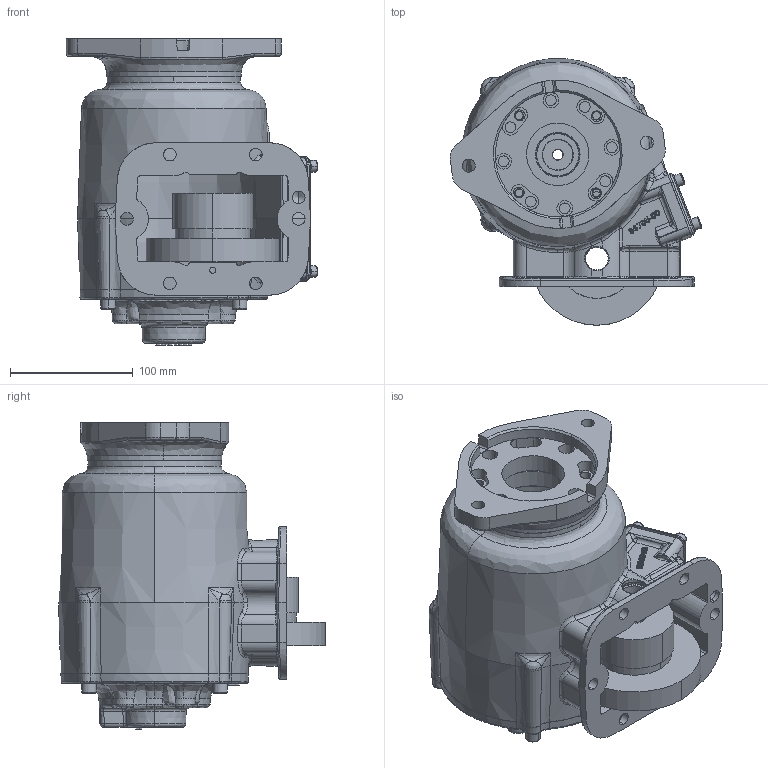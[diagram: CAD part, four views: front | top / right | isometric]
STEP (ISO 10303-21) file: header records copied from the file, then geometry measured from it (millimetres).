
FILE_DESCRIPTION (( 'STEP AP203' ), '1' );
FILE_NAME ('CS6S-XXXXX-X3SX.STEP', '2011-11-29T20:04:59', ( 'User' ), ( 'Muncie Power Products, Inc.' ), 'SwSTEP 2.0', 'SolidWorks 2011', '' );
FILE_SCHEMA (( 'CONFIG_CONTROL_DESIGN' ));
Length unit declared in the file: inch
Products named in the file (3): CS6S-XXXXX-X3SX; 14t35464; CS6S-XXXXX-X3DX
Assembly tree (2 placements, depth 2):
  CS6S-XXXXX-X3SX
    CS6S-XXXXX-X3DX
    14t35464
Bounding box: 204.55 x 216.75 x 249.19 mm (x, y, z)
Volume: 1543086.3 mm3; surface area: 402774.8 mm2
Topology: 13 solids, 13 shells, 1996 faces, 5114 edges, 3200 vertices
Faces by surface type: bspline 863, cylinder 444, plane 443, cone 197, torus 36, sphere 13
Entity records: 137233 total; most frequent: CARTESIAN_POINT 95193, ORIENTED_EDGE 10112, DIRECTION 6112, EDGE_CURVE 5056, VERTEX_POINT 3200, EDGE_LOOP 2210, AXIS2_PLACEMENT_3D 2134, B_SPLINE_CURVE_WITH_KNOTS 2112
